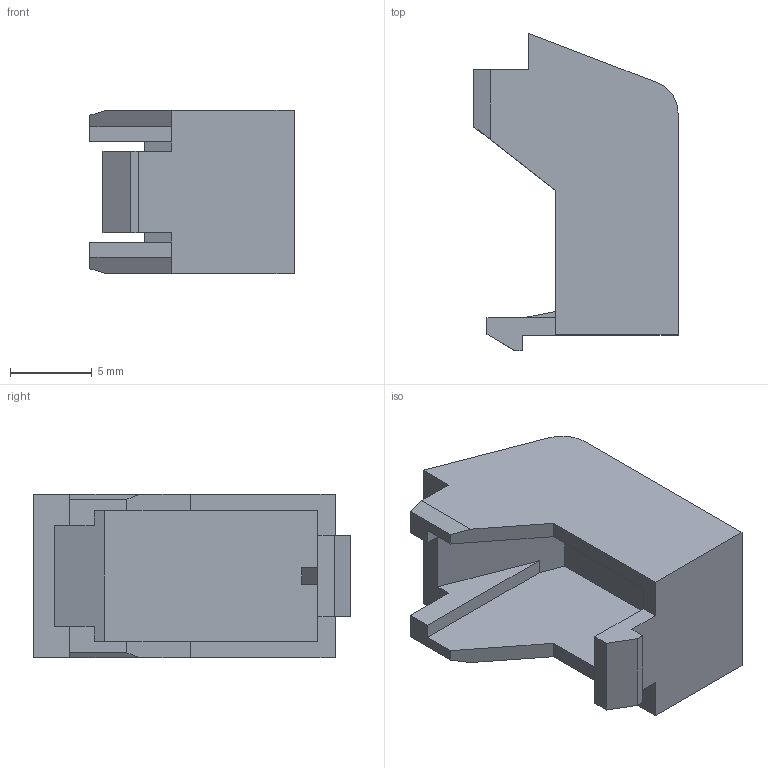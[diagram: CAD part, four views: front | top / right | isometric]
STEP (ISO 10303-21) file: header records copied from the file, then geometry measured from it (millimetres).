
FILE_DESCRIPTION(('FreeCAD Model'),'2;1');
FILE_NAME('Open CASCADE Shape Model','2023-04-26T11:16:54',('Author'),( ''),'Open CASCADE STEP processor 7.6','FreeCAD','Unknown');
FILE_SCHEMA(('AUTOMOTIVE_DESIGN { 1 0 10303 214 1 1 1 1 }'));
Length unit declared in the file: millimetre
Products named in the file (1): CPME-TC02
Bounding box: 12.5 x 19.42 x 10 mm (x, y, z)
Volume: 639.4 mm3; surface area: 1235.2 mm2
Topology: 1 solids, 1 shells, 36 faces, 102 edges, 68 vertices
Faces by surface type: plane 35, cylinder 1
Entity records: 2499 total; most frequent: CARTESIAN_POINT 417, DIRECTION 381, LINE 302, VECTOR 302, ORIENTED_EDGE 204, PCURVE 204, DEFINITIONAL_REPRESENTATION 204, EDGE_CURVE 102
